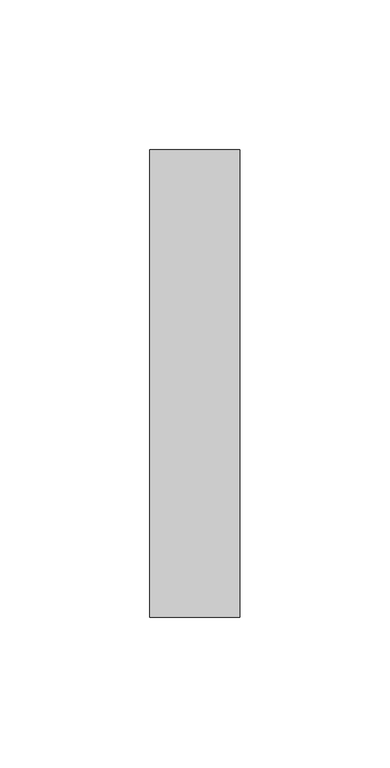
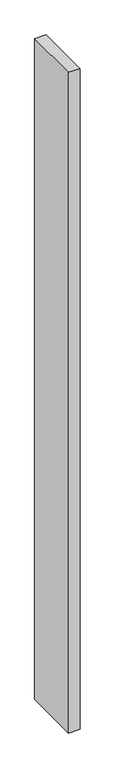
"""IFC4 building model written with IfcOpenShell, lengths in millimetres: furniture geometry, Divisoria_Lateral Fechada : Divisoria_Lateral Fechada_130x180."""

import ifcopenshell
import ifcopenshell.guid

model = None  # the IFC model being written
_history = None  # IfcOwnerHistory: only IFC2X3 demands one
_inside = {}  # id of a spatial element -> (the spatial element, [elements in it])
_under = {}  # id of a project, library or spatial element -> (it, [spatial elements below it])
_declared = {}  # id of a project -> (the project, [libraries it declares])
_typed = {}  # id of a type object -> (the type object, [elements of that type])
_made_of = {}  # id of a material, layer set ... -> (it, [elements and type objects made of it])


def new_model(schema):
    """Start an empty IFC model of exactly this schema.

    Asked for "IFC4X3", IfcOpenShell would pick the latest addendum, in which some entities
    have other attributes; the version numbers below select the first issue.
    IFC2X3 requires an IfcOwnerHistory on every rooted entity: one is made here for all.
    """
    global model, _history
    if schema == "IFC4X3":
        model = ifcopenshell.file(schema_version=(4, 3, 0, 0))
    else:
        model = ifcopenshell.file(schema=schema)
    _inside.clear()
    _under.clear()
    _declared.clear()
    _typed.clear()
    _made_of.clear()
    _history = None
    if model.schema == "IFC2X3":
        org = make("IfcOrganization", Name="unknown")
        user = make(
            "IfcPersonAndOrganization",
            ThePerson=make("IfcPerson", FamilyName="unknown"),
            TheOrganization=org,
        )
        app = make(
            "IfcApplication",
            ApplicationDeveloper=org,
            Version="unknown",
            ApplicationFullName="unknown",
            ApplicationIdentifier="unknown",
        )
        _history = make(
            "IfcOwnerHistory",
            OwningUser=user,
            OwningApplication=app,
            ChangeAction="ADDED",
            CreationDate=0,
        )
    return model


def make(cls, **values):
    """One entity of the class cls with the attributes given. An attribute that is None is left unset."""
    return model.create_entity(
        cls, **{name: value for name, value in values.items() if value is not None}
    )


def rooted(cls, **values):
    """An entity with a GlobalId (a new one), such as an element, a storey or a relation."""
    return make(cls, GlobalId=ifcopenshell.guid.new(), OwnerHistory=_history, **values)


def si_unit(unit_type, name, prefix=None):
    """IfcSIUnit, for example si_unit("LENGTHUNIT", "METRE", prefix="MILLI")."""
    return make("IfcSIUnit", UnitType=unit_type, Prefix=prefix, Name=name)


def assignment(units):
    """IfcUnitAssignment: the units of a project."""
    return None if units is None else make("IfcUnitAssignment", Units=units)


def point(xyz):
    """IfcCartesianPoint."""
    return None if xyz is None else make("IfcCartesianPoint", Coordinates=xyz)


def direction(xyz):
    """IfcDirection."""
    return None if xyz is None else make("IfcDirection", DirectionRatios=xyz)


def frame(location, z_axis=None, x_axis=None):
    """IfcAxis2Placement3D, a coordinate frame: its origin and axes. An axis left out is left unset."""
    return make(
        "IfcAxis2Placement3D",
        Location=point(location),
        Axis=direction(z_axis),
        RefDirection=direction(x_axis),
    )


def origin():
    """The frame at (0, 0, 0) with its axes left unset."""
    return frame((0.0, 0.0, 0.0))


def place(relative_to, where):
    """IfcLocalPlacement: puts the frame where relative to a parent placement (None: the world)."""
    return make(
        "IfcLocalPlacement", PlacementRelTo=relative_to, RelativePlacement=where
    )


def context(
    kind, dimensions, precision=None, world=None, true_north=None, identifier=None
):
    """IfcGeometricRepresentationContext, for example the 3D "Model" context."""
    return make(
        "IfcGeometricRepresentationContext",
        ContextIdentifier=identifier,
        ContextType=kind,
        CoordinateSpaceDimension=dimensions,
        Precision=precision,
        WorldCoordinateSystem=world,
        TrueNorth=true_north,
    )


def project(units=None, contexts=None):
    """IfcProject with its units and contexts."""
    return rooted(
        "IfcProject",
        Name="project",
        RepresentationContexts=contexts,
        UnitsInContext=assignment(units),
    )


def spatial(cls, under=None, at=None, **own):
    """A site, building, storey or space (cls), placed at a placement, below another one or the project."""
    s = rooted(cls, ObjectPlacement=at, **own)
    if under is not None:
        _under.setdefault(under.id(), (under, []))[1].append(s)
    return s


def polyline(points):
    """IfcPolyline through the points."""
    return make("IfcPolyline", Points=[point(p) for p in points])


def outline(outer, holes=None, kind="AREA"):
    """IfcArbitraryClosedProfileDef: a profile drawn as a closed curve; with holes, ...WithVoids."""
    if holes is None:
        return make("IfcArbitraryClosedProfileDef", ProfileType=kind, OuterCurve=outer)
    return make(
        "IfcArbitraryProfileDefWithVoids",
        ProfileType=kind,
        OuterCurve=outer,
        InnerCurves=holes,
    )


def extrude(swept, where, along, depth):
    """IfcExtrudedAreaSolid: the profile swept, set in the frame where, extruded along a direction by depth."""
    return make(
        "IfcExtrudedAreaSolid",
        SweptArea=swept,
        Position=where,
        ExtrudedDirection=direction(along),
        Depth=depth,
    )


def shape(context_of_items, identifier, shape_type, items):
    """IfcShapeRepresentation: the items that make up one representation, for example the "Body"."""
    return make(
        "IfcShapeRepresentation",
        ContextOfItems=context_of_items,
        RepresentationIdentifier=identifier,
        RepresentationType=shape_type,
        Items=items,
    )


def source(mapping_origin, context_of_items, identifier, shape_type, items):
    """IfcRepresentationMap: a shape defined once, which mapped items show again and again."""
    return make(
        "IfcRepresentationMap",
        MappingOrigin=mapping_origin,
        MappedRepresentation=shape(context_of_items, identifier, shape_type, items),
    )


def transform(
    local_origin,
    x_axis=None,
    y_axis=None,
    z_axis=None,
    scale=None,
    scale2=None,
    scale3=None,
    uniform=True,
):
    """IfcCartesianTransformationOperator3D, or its non-uniform kind. x_axis, y_axis, z_axis: its Axis1, 2, 3."""
    if uniform:
        return make(
            "IfcCartesianTransformationOperator3D",
            Axis1=direction(x_axis),
            Axis2=direction(y_axis),
            LocalOrigin=point(local_origin),
            Scale=scale,
            Axis3=direction(z_axis),
        )
    return make(
        "IfcCartesianTransformationOperator3DnonUniform",
        Axis1=direction(x_axis),
        Axis2=direction(y_axis),
        LocalOrigin=point(local_origin),
        Scale=scale,
        Axis3=direction(z_axis),
        Scale2=scale2,
        Scale3=scale3,
    )


def mapped(mapping_source, mapping_target):
    """IfcMappedItem: shows the shape of a source again, moved by a transform."""
    return make(
        "IfcMappedItem", MappingSource=mapping_source, MappingTarget=mapping_target
    )


def made_of(thing, what):
    """Note that an element or type object is made of a material, layer set ...; save() writes the relation."""
    if what is not None:
        _made_of.setdefault(what.id(), (what, []))[1].append(thing)
    return thing


def element(
    cls,
    number,
    at=None,
    inside=None,
    cuts=None,
    type_object=None,
    material=None,
    context=None,
    identifier="Body",
    shape_type=None,
    held_by="IfcProductDefinitionShape",
    body=None,
    shapes=None,
    **own,
):
    """One element of the class cls, such as IfcWall. Its Tag is "e" and its number.

    at: its placement. inside: the storey or other place that contains it. cuts: it is an
    opening in that element (IfcRelVoidsElement). A single representation is given by context,
    identifier, shape_type and body (its items); several are given by shapes. held_by: the class
    of the entity that holds the representations. save() writes the other relations.
    """
    e = rooted(cls, Tag="e%d" % number, ObjectPlacement=at, **own)
    if body is not None:
        shapes = [shape(context, identifier, shape_type, body)]
    if shapes is not None:
        e.Representation = make(held_by, Representations=shapes)
    if inside is not None:
        _inside.setdefault(inside.id(), (inside, []))[1].append(e)
    if cuts is not None:
        rooted(
            "IfcRelVoidsElement", RelatingBuildingElement=cuts, RelatedOpeningElement=e
        )
    if type_object is not None:
        _typed.setdefault(type_object.id(), (type_object, []))[1].append(e)
    return made_of(e, material)


def aggregate(whole, parts):
    """IfcRelAggregates: a whole, such as a stair, and the parts it consists of."""
    return rooted("IfcRelAggregates", RelatingObject=whole, RelatedObjects=parts)


def save(model, path):
    """Write the relations noted so far, then the file.

    IfcRelAggregates (storeys below a building ...), IfcRelContainedInSpatialStructure (elements
    in a storey), IfcRelDefinesByType, IfcRelAssociatesMaterial and IfcRelDeclares: one each for
    every whole, place, type object, material and project.
    """
    for whole, parts in _under.values():
        aggregate(whole, parts)
    for where, things in _inside.values():
        rooted(
            "IfcRelContainedInSpatialStructure",
            RelatedElements=things,
            RelatingStructure=where,
        )
    for kind, things in _typed.values():
        rooted("IfcRelDefinesByType", RelatedObjects=things, RelatingType=kind)
    for what, things in _made_of.values():
        rooted("IfcRelAssociatesMaterial", RelatedObjects=things, RelatingMaterial=what)
    for by, libraries in _declared.values():
        rooted("IfcRelDeclares", RelatingContext=by, RelatedDefinitions=libraries)
    model.write(path)


def furniture_3c58eeae(model_context):
    return source(origin(), model_context, "Body", "SweptSolid", [
        extrude(outline(polyline([(59.7003264, 50.0), (59.7003264, -106.0), (29.7003264, -106.0), (29.7003264, 50.0), (59.7003264, 50.0)])), frame((0.0, 0.0, 50.0), z_axis=(0.0, 0.0, 1.0), x_axis=(1.0, 0.0, 0.0)), (0.0, 0.0, 1.0), 1850.0),
    ])


if __name__ == "__main__":
    model = new_model("IFC4")
    model_context = context("Model", 3, world=origin())
    ifc_project = project(units=[si_unit("LENGTHUNIT", "METRE", prefix="MILLI")], contexts=[model_context])
    site = spatial("IfcSite", under=ifc_project)
    building = spatial("IfcBuilding", under=site)
    placement = place(None, origin())
    furniture_shape = furniture_3c58eeae(model_context)
    element("IfcFurniture", 1, ObjectType="Divisoria_Lateral Fechada : Divisoria_Lateral Fechada_130x180", at=placement, inside=building, context=model_context, shape_type="MappedRepresentation", body=[
        mapped(furniture_shape, transform((0.0, 0.0, 0.0), x_axis=(1.0, 0.0, 0.0), y_axis=(0.0, 1.0, 0.0), z_axis=(0.0, 0.0, 1.0))),
    ])
    save(model, "model.ifc")
